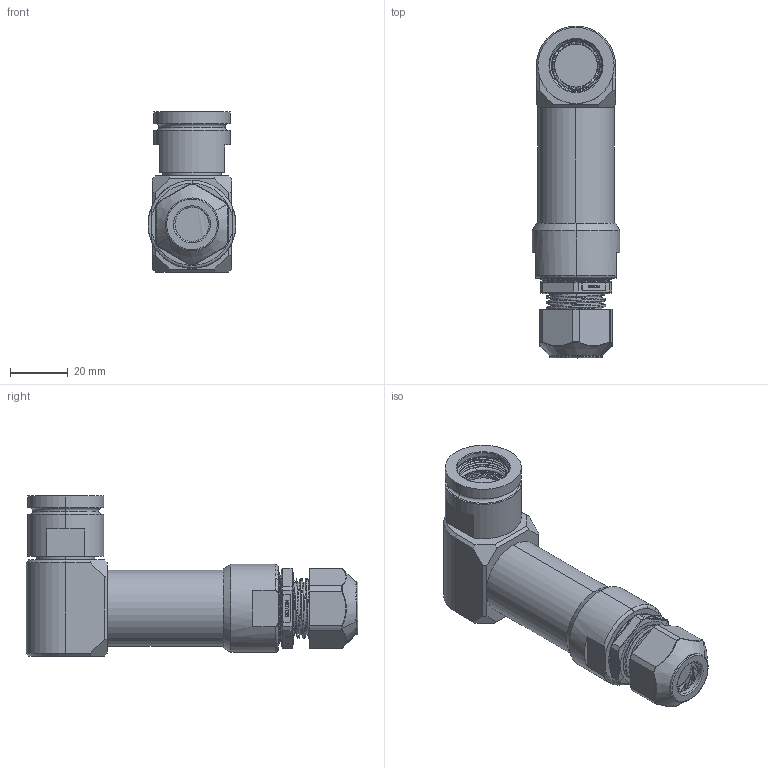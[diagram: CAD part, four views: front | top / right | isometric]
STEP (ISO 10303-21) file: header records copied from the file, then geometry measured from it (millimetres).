
FILE_DESCRIPTION (( 'STEP AP214' ), '1' );
FILE_NAME ('Q38EBSHELL-90X-13-XXXX-GL.STEP', '2025-09-24T15:01:33', ( '' ), ( '' ), 'SwSTEP 2.0', 'SolidWorks 2024', '' );
FILE_SCHEMA (( 'AUTOMOTIVE_DESIGN' ));
Length unit declared in the file: millimetre
Products named in the file (1): Q38EBSHELL-90X-13-XXXX-GL
Bounding box: 30.48 x 115.01 x 55.45 mm (x, y, z)
Surface area: 24448.8 mm2 (no closed solid volume)
Topology: 0 solids, 10 shells, 1306 faces, 3357 edges, 2129 vertices
Faces by surface type: plane 630, cylinder 229, bspline 154, torus 123, cone 116, sphere 54
Entity records: 60384 total; most frequent: CARTESIAN_POINT 34870, ORIENTED_EDGE 6672, EDGE_CURVE 3356, DIRECTION 3171, B_SPLINE_CURVE_WITH_KNOTS 2561, VERTEX_POINT 2129, AXIS2_PLACEMENT_3D 1441, EDGE_LOOP 1374
